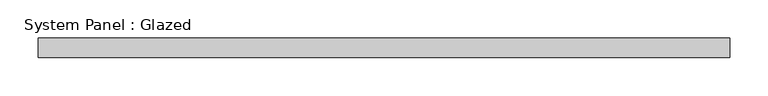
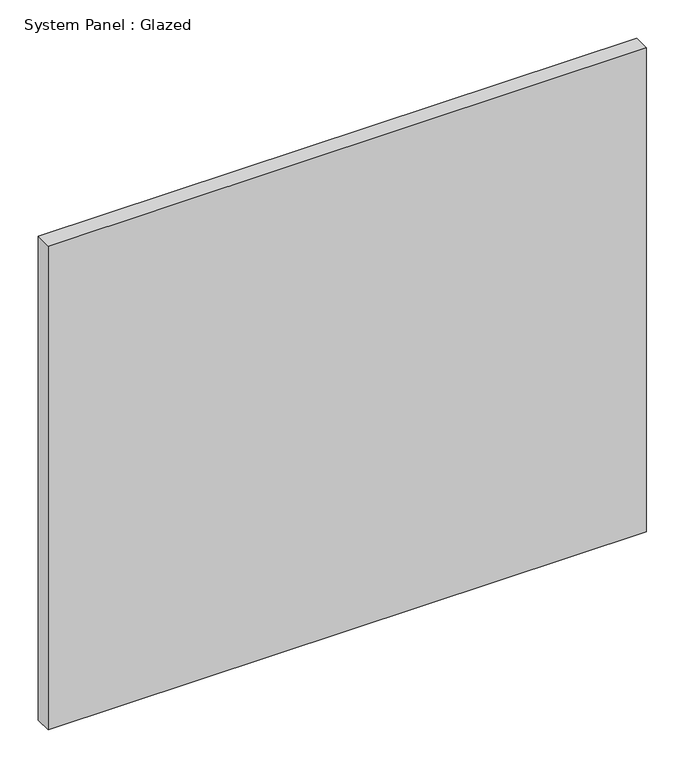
"""IFC4 building model written with IfcOpenShell, lengths in millimetres: plate geometry, System Panel : Glazed."""

from ifc_helpers import new_model, si_unit, origin, origin_with_axes, place, context, project, spatial, polyline, outline, extrude, source, transform, mapped, element, save


def system_panel_glazed_9f405089(model_context):
    return source(origin(), model_context, "Body", "SweptSolid", [
        extrude(outline(polyline([(450.85, 19.05), (-450.85, 19.05), (-450.85, 44.45), (450.85, 44.45), (450.85, 19.05)])), origin_with_axes(), (0.0, 0.0, 1.0), 770.6690025),
    ])


if __name__ == "__main__":
    model = new_model("IFC4")
    model_context = context("Model", 3, world=origin())
    ifc_project = project(units=[si_unit("LENGTHUNIT", "METRE", prefix="MILLI")], contexts=[model_context])
    site = spatial("IfcSite", under=ifc_project)
    building = spatial("IfcBuilding", under=site)
    placement = place(None, origin())
    system_panel_glazed_shape = system_panel_glazed_9f405089(model_context)
    element("IfcPlate", 1, ObjectType="System Panel : Glazed", at=placement, inside=building, context=model_context, shape_type="MappedRepresentation", body=[
        mapped(system_panel_glazed_shape, transform((0.0, 0.0, 0.0), x_axis=(1.0, 0.0, 0.0), y_axis=(0.0, 1.0, 0.0), z_axis=(0.0, 0.0, 1.0))),
    ])
    save(model, "model.ifc")
